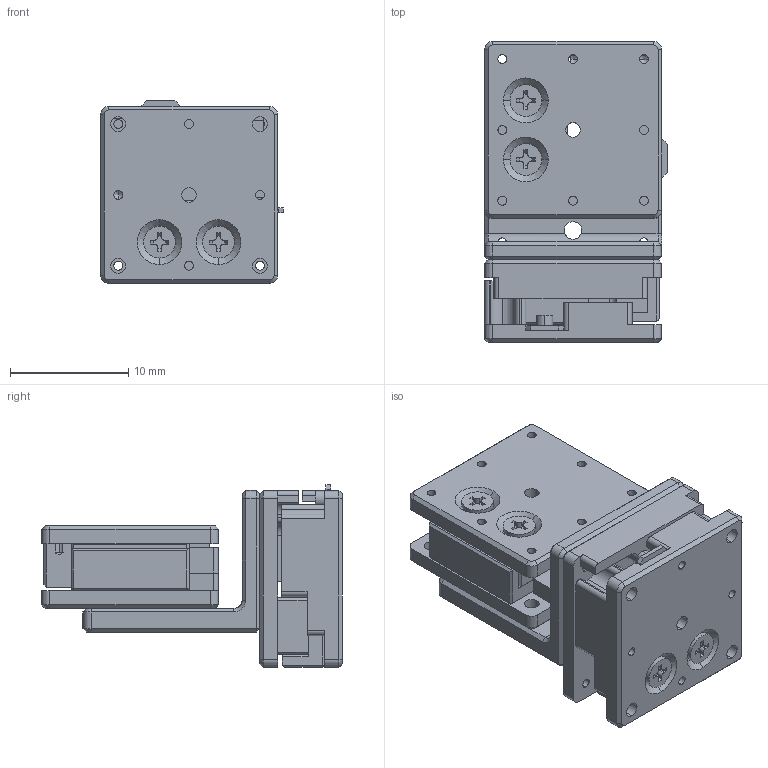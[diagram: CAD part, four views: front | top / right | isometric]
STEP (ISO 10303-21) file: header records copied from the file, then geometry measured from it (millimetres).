
FILE_DESCRIPTION (( 'STEP AP214' ), '1' );
FILE_NAME ('N11.XZ3.5K直线压电马达(20250402).STEP', '2025-04-02T08:54:13', ( '微软用户' ), ( '微软中国' ), 'SwSTEP 2.0', 'SolidWorks 2016', '' );
FILE_SCHEMA (( 'AUTOMOTIVE_DESIGN' ));
Length unit declared in the file: millimetre
Products named in the file (1): N11.XZ3.5K眻盄揤萇鎮湛(20250402)
Bounding box: 15.5 x 25.5 x 15.5 mm (x, y, z)
Volume: 2908.2 mm3; surface area: 5103 mm2
Topology: 27 solids, 27 shells, 1002 faces, 2607 edges, 1672 vertices
Faces by surface type: plane 507, cylinder 351, cone 112, bspline 32
Entity records: 32381 total; most frequent: CARTESIAN_POINT 6432, DIRECTION 5377, ORIENTED_EDGE 5178, EDGE_CURVE 2589, AXIS2_PLACEMENT_3D 1859, VERTEX_POINT 1672, VECTOR 1659, LINE 1659
